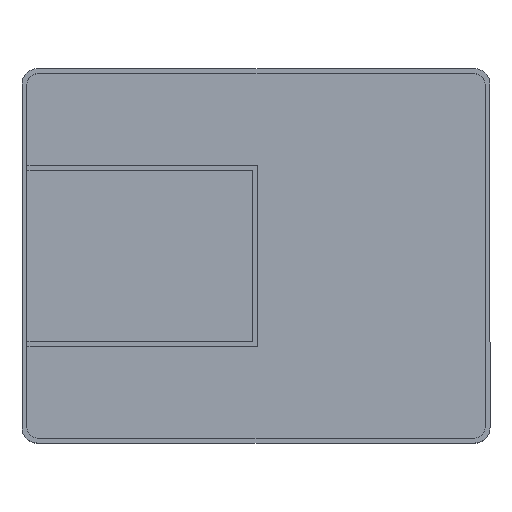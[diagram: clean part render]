
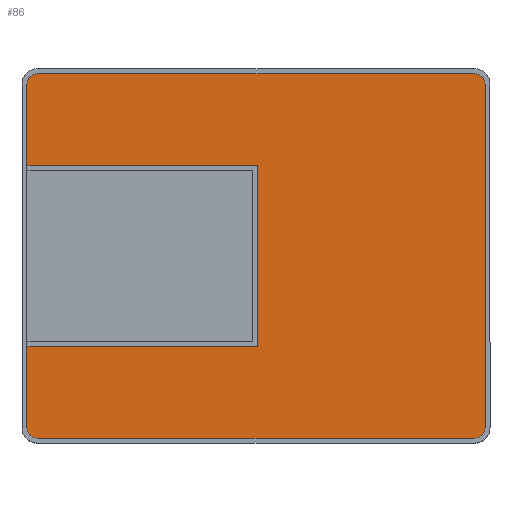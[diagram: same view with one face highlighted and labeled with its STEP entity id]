
A CAD part, top view. The second image highlights one B-rep face of the part: STEP entity #86.
In plain terms, the highlighted planar face has unit normal (0, 0, 1).
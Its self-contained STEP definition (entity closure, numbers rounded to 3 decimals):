
#2 = ORIENTED_EDGE ( 'NONE', *, *, #1300, .F. ) ;
#14 = VERTEX_POINT ( 'NONE', #480 ) ;
#30 = LINE ( 'NONE', #156, #95 ) ;
#35 = LINE ( 'NONE', #1335, #490 ) ;
#41 = DIRECTION ( 'NONE',  ( 1., 0., 0. ) ) ;
#42 = DIRECTION ( 'NONE',  ( 0., 0., -1. ) ) ;
#52 = CARTESIAN_POINT ( 'NONE',  ( -73.4, 0., -48.4 ) ) ;
#72 = DIRECTION ( 'NONE',  ( 1., 0., 0. ) ) ;
#83 = LINE ( 'NONE', #407, #1103 ) ;
#85 = CIRCLE ( 'NONE', #750, 3.4 ) ;
#86 = ADVANCED_FACE ( 'NONE', ( #811 ), #372, .T. ) ;
#95 = VECTOR ( 'NONE', #458, 1000. ) ;
#105 = CARTESIAN_POINT ( 'NONE',  ( 70., -58.4, -48.4 ) ) ;
#121 = ORIENTED_EDGE ( 'NONE', *, *, #861, .T. ) ;
#127 = VECTOR ( 'NONE', #1011, 1000. ) ;
#136 = DIRECTION ( 'NONE',  ( 0., 0., -1. ) ) ;
#156 = CARTESIAN_POINT ( 'NONE',  ( -73.4, 0., -48.4 ) ) ;
#198 = CIRCLE ( 'NONE', #240, 3.4 ) ;
#206 = EDGE_CURVE ( 'NONE', #765, #300, #975, .T. ) ;
#223 = CARTESIAN_POINT ( 'NONE',  ( 0.6, -29.1, -48.4 ) ) ;
#224 = ORIENTED_EDGE ( 'NONE', *, *, #863, .F. ) ;
#240 = AXIS2_PLACEMENT_3D ( 'NONE', #816, #42, #1323 ) ;
#260 = CARTESIAN_POINT ( 'NONE',  ( -73.4, 29.1, -48.4 ) ) ;
#293 = ORIENTED_EDGE ( 'NONE', *, *, #783, .T. ) ;
#300 = VERTEX_POINT ( 'NONE', #653 ) ;
#308 = ORIENTED_EDGE ( 'NONE', *, *, #563, .F. ) ;
#310 = CIRCLE ( 'NONE', #350, 3.4 ) ;
#350 = AXIS2_PLACEMENT_3D ( 'NONE', #956, #1314, #961 ) ;
#360 = DIRECTION ( 'NONE',  ( 0., 1., 0. ) ) ;
#361 = LINE ( 'NONE', #806, #1075 ) ;
#362 = EDGE_LOOP ( 'NONE', ( #2, #224, #558, #633, #1042, #455, #293, #1278, #121, #308, #754, #649 ) ) ;
#372 = PLANE ( 'NONE',  #658 ) ;
#374 = DIRECTION ( 'NONE',  ( 1., 0., 0. ) ) ;
#407 = CARTESIAN_POINT ( 'NONE',  ( 0., 58.4, -48.4 ) ) ;
#418 = VECTOR ( 'NONE', #374, 1000. ) ;
#454 = CARTESIAN_POINT ( 'NONE',  ( 70., 55., -48.4 ) ) ;
#455 = ORIENTED_EDGE ( 'NONE', *, *, #1070, .F. ) ;
#456 = DIRECTION ( 'NONE',  ( 0., -1., 0. ) ) ;
#458 = DIRECTION ( 'NONE',  ( 0., -1., 0. ) ) ;
#464 = LINE ( 'NONE', #52, #769 ) ;
#475 = EDGE_CURVE ( 'NONE', #1294, #663, #85, .T. ) ;
#480 = CARTESIAN_POINT ( 'NONE',  ( -73.4, 29.1, -48.4 ) ) ;
#490 = VECTOR ( 'NONE', #360, 1000. ) ;
#497 = CARTESIAN_POINT ( 'NONE',  ( -73.4, -29.1, -48.4 ) ) ;
#504 = EDGE_CURVE ( 'NONE', #1313, #14, #1001, .T. ) ;
#518 = CARTESIAN_POINT ( 'NONE',  ( -73.4, -29.1, -48.4 ) ) ;
#558 = ORIENTED_EDGE ( 'NONE', *, *, #742, .T. ) ;
#563 = EDGE_CURVE ( 'NONE', #1223, #717, #198, .T. ) ;
#577 = CARTESIAN_POINT ( 'NONE',  ( -70., 58.4, -48.4 ) ) ;
#633 = ORIENTED_EDGE ( 'NONE', *, *, #206, .F. ) ;
#636 = DIRECTION ( 'NONE',  ( -1., 0., 0. ) ) ;
#639 = VERTEX_POINT ( 'NONE', #223 ) ;
#649 = ORIENTED_EDGE ( 'NONE', *, *, #504, .F. ) ;
#653 = CARTESIAN_POINT ( 'NONE',  ( -73.4, -55., -48.4 ) ) ;
#658 = AXIS2_PLACEMENT_3D ( 'NONE', #1221, #1229, #690 ) ;
#663 = VERTEX_POINT ( 'NONE', #1311 ) ;
#670 = VERTEX_POINT ( 'NONE', #105 ) ;
#690 = DIRECTION ( 'NONE',  ( 1., 0., 0. ) ) ;
#705 = DIRECTION ( 'NONE',  ( 1., 0., 0. ) ) ;
#717 = VERTEX_POINT ( 'NONE', #577 ) ;
#742 = EDGE_CURVE ( 'NONE', #1119, #300, #464, .T. ) ;
#750 = AXIS2_PLACEMENT_3D ( 'NONE', #454, #136, #705 ) ;
#754 = ORIENTED_EDGE ( 'NONE', *, *, #1263, .T. ) ;
#765 = VERTEX_POINT ( 'NONE', #804 ) ;
#769 = VECTOR ( 'NONE', #456, 1000. ) ;
#783 = EDGE_CURVE ( 'NONE', #1099, #663, #35, .T. ) ;
#804 = CARTESIAN_POINT ( 'NONE',  ( -70., -58.4, -48.4 ) ) ;
#805 = EDGE_CURVE ( 'NONE', #765, #670, #1123, .T. ) ;
#806 = CARTESIAN_POINT ( 'NONE',  ( 0.6, -29.1, -48.4 ) ) ;
#811 = FACE_OUTER_BOUND ( 'NONE', #362, .T. ) ;
#816 = CARTESIAN_POINT ( 'NONE',  ( -70., 55., -48.4 ) ) ;
#845 = CARTESIAN_POINT ( 'NONE',  ( 73.4, -55., -48.4 ) ) ;
#861 = EDGE_CURVE ( 'NONE', #1294, #717, #83, .T. ) ;
#863 = EDGE_CURVE ( 'NONE', #1119, #639, #1375, .T. ) ;
#892 = CARTESIAN_POINT ( 'NONE',  ( -73.4, 55., -48.4 ) ) ;
#956 = CARTESIAN_POINT ( 'NONE',  ( 70., -55., -48.4 ) ) ;
#961 = DIRECTION ( 'NONE',  ( 1., 0., 0. ) ) ;
#975 = CIRCLE ( 'NONE', #1087, 3.4 ) ;
#1001 = LINE ( 'NONE', #260, #127 ) ;
#1011 = DIRECTION ( 'NONE',  ( -1., 0., 0. ) ) ;
#1015 = CARTESIAN_POINT ( 'NONE',  ( 70., 58.4, -48.4 ) ) ;
#1017 = CARTESIAN_POINT ( 'NONE',  ( -70., -55., -48.4 ) ) ;
#1039 = CARTESIAN_POINT ( 'NONE',  ( 0., -58.4, -48.4 ) ) ;
#1042 = ORIENTED_EDGE ( 'NONE', *, *, #805, .T. ) ;
#1070 = EDGE_CURVE ( 'NONE', #1099, #670, #310, .T. ) ;
#1075 = VECTOR ( 'NONE', #1125, 1000. ) ;
#1087 = AXIS2_PLACEMENT_3D ( 'NONE', #1017, #1331, #41 ) ;
#1099 = VERTEX_POINT ( 'NONE', #845 ) ;
#1103 = VECTOR ( 'NONE', #636, 1000. ) ;
#1119 = VERTEX_POINT ( 'NONE', #518 ) ;
#1123 = LINE ( 'NONE', #1039, #418 ) ;
#1125 = DIRECTION ( 'NONE',  ( 0., 1., 0. ) ) ;
#1221 = CARTESIAN_POINT ( 'NONE',  ( 0., 0., -48.4 ) ) ;
#1223 = VERTEX_POINT ( 'NONE', #892 ) ;
#1229 = DIRECTION ( 'NONE',  ( 0., 0., 1. ) ) ;
#1240 = CARTESIAN_POINT ( 'NONE',  ( 0.6, 29.1, -48.4 ) ) ;
#1263 = EDGE_CURVE ( 'NONE', #1223, #14, #30, .T. ) ;
#1278 = ORIENTED_EDGE ( 'NONE', *, *, #475, .F. ) ;
#1294 = VERTEX_POINT ( 'NONE', #1015 ) ;
#1300 = EDGE_CURVE ( 'NONE', #639, #1313, #361, .T. ) ;
#1311 = CARTESIAN_POINT ( 'NONE',  ( 73.4, 55., -48.4 ) ) ;
#1313 = VERTEX_POINT ( 'NONE', #1240 ) ;
#1314 = DIRECTION ( 'NONE',  ( 0., 0., -1. ) ) ;
#1323 = DIRECTION ( 'NONE',  ( 1., 0., 0. ) ) ;
#1331 = DIRECTION ( 'NONE',  ( 0., 0., -1. ) ) ;
#1335 = CARTESIAN_POINT ( 'NONE',  ( 73.4, 0., -48.4 ) ) ;
#1375 = LINE ( 'NONE', #497, #1402 ) ;
#1402 = VECTOR ( 'NONE', #72, 1000. ) ;
